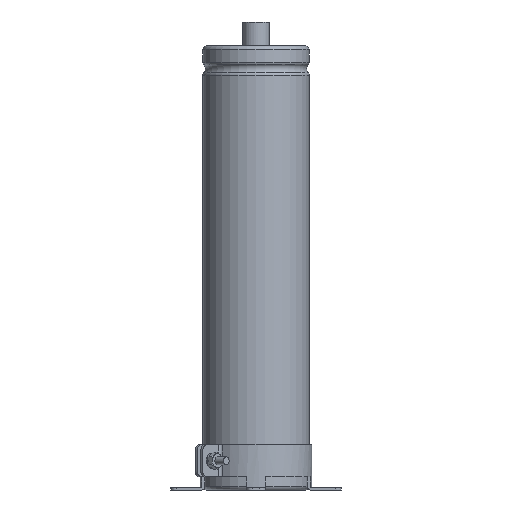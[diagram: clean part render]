
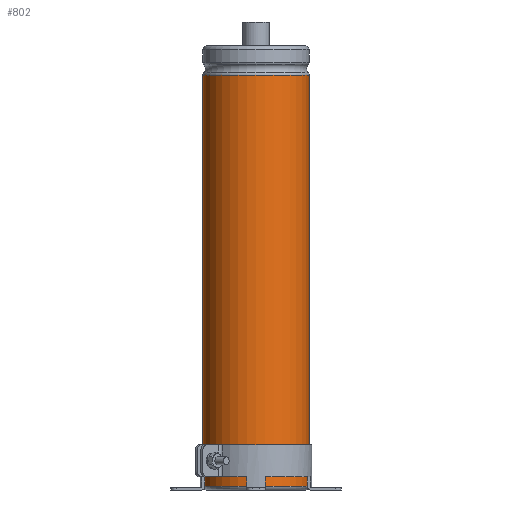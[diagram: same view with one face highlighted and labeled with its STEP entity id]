
A CAD part, front view. The second image highlights one B-rep face of the part: STEP entity #802.
In plain terms, the highlighted cylindrical face has radius 20 mm (diameter 40 mm), a partial arc.
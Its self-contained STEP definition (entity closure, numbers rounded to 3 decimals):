
#802=ADVANCED_FACE('',(#1108),#1013,.T.);
#1013=CYLINDRICAL_SURFACE('',#4619,20.);
#1108=FACE_OUTER_BOUND('',#1342,.T.);
#1342=EDGE_LOOP('',(#2357,#2358,#2359,#2360));
#1673=LINE('',#6877,#1877);
#1674=LINE('',#6881,#1878);
#1877=VECTOR('',#5418,1.);
#1878=VECTOR('',#5421,1.);
#2357=ORIENTED_EDGE('',*,*,#3774,.T.);
#2358=ORIENTED_EDGE('',*,*,#3775,.T.);
#2359=ORIENTED_EDGE('',*,*,#3776,.F.);
#2360=ORIENTED_EDGE('',*,*,#3777,.F.);
#3308=VERTEX_POINT('',#6870);
#3310=VERTEX_POINT('',#6874);
#3311=VERTEX_POINT('',#6878);
#3312=VERTEX_POINT('',#6880);
#3774=EDGE_CURVE('',#3308,#3310,#4260,.T.);
#3775=EDGE_CURVE('',#3310,#3311,#1673,.T.);
#3776=EDGE_CURVE('',#3312,#3311,#4261,.T.);
#3777=EDGE_CURVE('',#3308,#3312,#1674,.T.);
#4260=CIRCLE('',#4616,20.);
#4261=CIRCLE('',#4618,20.);
#4616=AXIS2_PLACEMENT_3D('',#6875,#5414,#5415);
#4618=AXIS2_PLACEMENT_3D('',#6879,#5419,#5420);
#4619=AXIS2_PLACEMENT_3D('',#6882,#5422,#5423);
#5414=DIRECTION('',(0.,0.,-1.));
#5415=DIRECTION('',(0.,1.,0.));
#5418=DIRECTION('',(0.,0.,-1.));
#5419=DIRECTION('',(0.,0.,-1.));
#5420=DIRECTION('',(0.,1.,0.));
#5421=DIRECTION('',(0.,0.,-1.));
#5422=DIRECTION('',(0.,0.,-1.));
#5423=DIRECTION('',(0.,1.,0.));
#6870=CARTESIAN_POINT('',(3.987,19.598,155.9));
#6874=CARTESIAN_POINT('',(-3.987,19.598,155.9));
#6875=CARTESIAN_POINT('',(0.,0.,155.9));
#6877=CARTESIAN_POINT('',(-3.987,19.598,155.9));
#6878=CARTESIAN_POINT('',(-3.987,19.598,1.5));
#6879=CARTESIAN_POINT('',(0.,0.,1.5));
#6880=CARTESIAN_POINT('',(3.987,19.598,1.5));
#6881=CARTESIAN_POINT('',(3.987,19.598,155.9));
#6882=CARTESIAN_POINT('',(0.,0.,0.));
